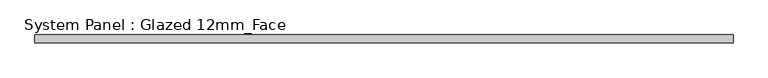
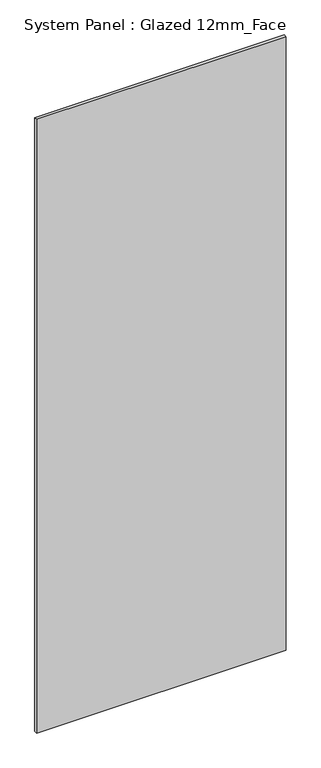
"""IFC4 building model written with IfcOpenShell, lengths in millimetres: plate geometry, System Panel : Glazed 12mm_Face."""

from ifc_helpers import new_model, si_unit, origin, origin_with_axes, place, context, project, spatial, polyline, outline, extrude, source, transform, mapped, element, save


def system_panel_glazed_12mm_face_3be9fbfc(model_context):
    return source(origin(), model_context, "Body", "SweptSolid", [
        extrude(outline(polyline([(539.1878558, 0.0), (-539.1878558, 0.0), (-539.1878558, 12.0), (539.1878558, 12.0), (539.1878558, 0.0)])), origin_with_axes(), (0.0, 0.0, 1.0), 2800.0),
    ])


if __name__ == "__main__":
    model = new_model("IFC4")
    model_context = context("Model", 3, world=origin())
    ifc_project = project(units=[si_unit("LENGTHUNIT", "METRE", prefix="MILLI")], contexts=[model_context])
    site = spatial("IfcSite", under=ifc_project)
    building = spatial("IfcBuilding", under=site)
    placement = place(None, origin())
    system_panel_glazed_12mm_face_shape = system_panel_glazed_12mm_face_3be9fbfc(model_context)
    element("IfcPlate", 1, ObjectType="System Panel : Glazed 12mm_Face", at=placement, inside=building, context=model_context, shape_type="MappedRepresentation", body=[
        mapped(system_panel_glazed_12mm_face_shape, transform((0.0, 0.0, 0.0), x_axis=(1.0, 0.0, 0.0), y_axis=(0.0, 1.0, 0.0), z_axis=(0.0, 0.0, 1.0))),
    ])
    save(model, "model.ifc")
